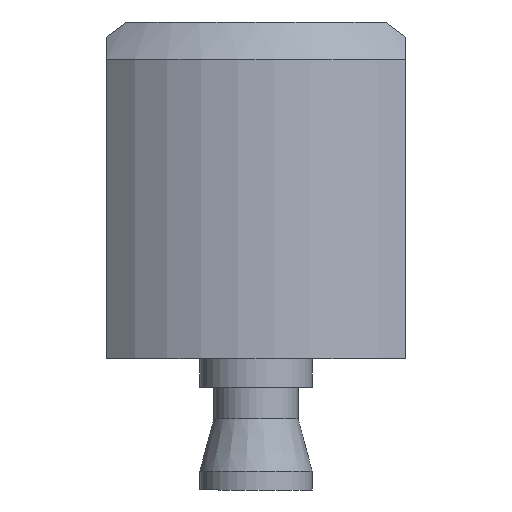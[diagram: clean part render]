
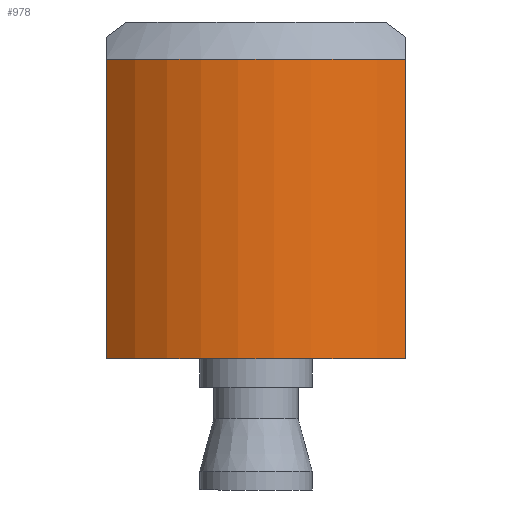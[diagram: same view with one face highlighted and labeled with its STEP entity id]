
A CAD part, front view. The second image highlights one B-rep face of the part: STEP entity #978.
In plain terms, the highlighted cylindrical face has radius 11.5 mm (diameter 23 mm), a partial arc.
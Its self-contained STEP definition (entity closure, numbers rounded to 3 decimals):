
#23=CYLINDRICAL_SURFACE('',#1061,11.5);
#58=FACE_OUTER_BOUND('',#116,.T.);
#116=EDGE_LOOP('',(#628,#629,#630,#631));
#181=CIRCLE('',#1058,11.5);
#183=CIRCLE('',#1062,11.5);
#222=LINE('',#1454,#310);
#223=LINE('',#1458,#311);
#310=VECTOR('',#1167,10.);
#311=VECTOR('',#1172,10.);
#393=VERTEX_POINT('',#1428);
#395=VERTEX_POINT('',#1432);
#398=VERTEX_POINT('',#1439);
#403=VERTEX_POINT('',#1456);
#484=EDGE_CURVE('',#393,#395,#181,.T.);
#492=EDGE_CURVE('',#393,#398,#222,.T.);
#493=EDGE_CURVE('',#398,#403,#183,.T.);
#494=EDGE_CURVE('',#395,#403,#223,.T.);
#628=ORIENTED_EDGE('',*,*,#493,.F.);
#629=ORIENTED_EDGE('',*,*,#492,.F.);
#630=ORIENTED_EDGE('',*,*,#484,.T.);
#631=ORIENTED_EDGE('',*,*,#494,.T.);
#978=ADVANCED_FACE('',(#58),#23,.T.);
#1058=AXIS2_PLACEMENT_3D('',#1434,#1157,#1158);
#1061=AXIS2_PLACEMENT_3D('',#1455,#1168,#1169);
#1062=AXIS2_PLACEMENT_3D('',#1457,#1170,#1171);
#1157=DIRECTION('center_axis',(0.,0.,1.));
#1158=DIRECTION('ref_axis',(-0.696,-0.718,0.));
#1167=DIRECTION('',(0.,0.,1.));
#1168=DIRECTION('center_axis',(0.,0.,1.));
#1169=DIRECTION('ref_axis',(-0.696,-0.718,0.));
#1170=DIRECTION('center_axis',(0.,0.,1.));
#1171=DIRECTION('ref_axis',(-0.696,-0.718,0.));
#1172=DIRECTION('',(0.,0.,1.));
#1428=CARTESIAN_POINT('',(-12.282,-11.052,-9.));
#1432=CARTESIAN_POINT('',(3.718,-11.052,-9.));
#1434=CARTESIAN_POINT('Origin',(-4.282,-2.791,-9.));
#1439=CARTESIAN_POINT('',(-12.282,-11.052,7.));
#1454=CARTESIAN_POINT('',(-12.282,-11.052,-9.));
#1455=CARTESIAN_POINT('Origin',(-4.282,-2.791,-9.));
#1456=CARTESIAN_POINT('',(3.718,-11.052,7.));
#1457=CARTESIAN_POINT('Origin',(-4.282,-2.791,7.));
#1458=CARTESIAN_POINT('',(3.718,-11.052,-9.));
